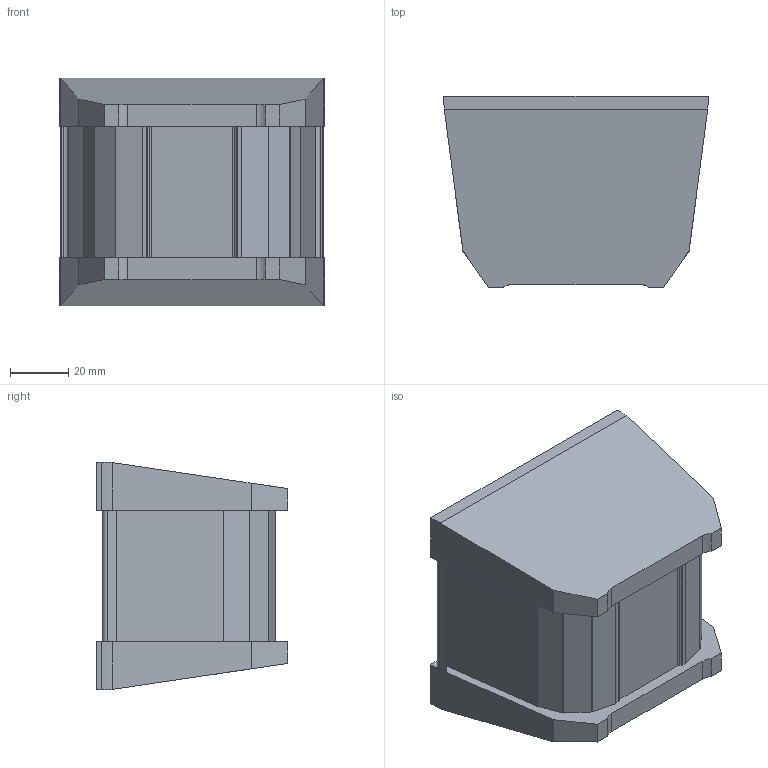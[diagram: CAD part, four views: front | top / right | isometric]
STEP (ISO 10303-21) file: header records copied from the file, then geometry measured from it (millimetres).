
FILE_DESCRIPTION (( 'STEP AP214' ), '1' );
FILE_NAME ('Besteckschale NL 77 L78.step', '2010-09-21T13:13:31', ( 'grass' ), ( '' ), 'SwSTEP 2.0', 'SolidWorks 2010', '' );
FILE_SCHEMA (( 'AUTOMOTIVE_DESIGN' ));
Length unit declared in the file: millimetre
Products named in the file (1): Besteckschale NL 77 L78
Bounding box: 90.5 x 65.5 x 78 mm (x, y, z)
Volume: 52105.9 mm3; surface area: 46212.2 mm2
Topology: 1 solids, 1 shells, 112 faces, 324 edges, 216 vertices
Faces by surface type: plane 80, cylinder 32
Entity records: 3702 total; most frequent: CARTESIAN_POINT 677, ORIENTED_EDGE 648, DIRECTION 602, EDGE_CURVE 324, LINE 256, VECTOR 256, VERTEX_POINT 216, AXIS2_PLACEMENT_3D 173
